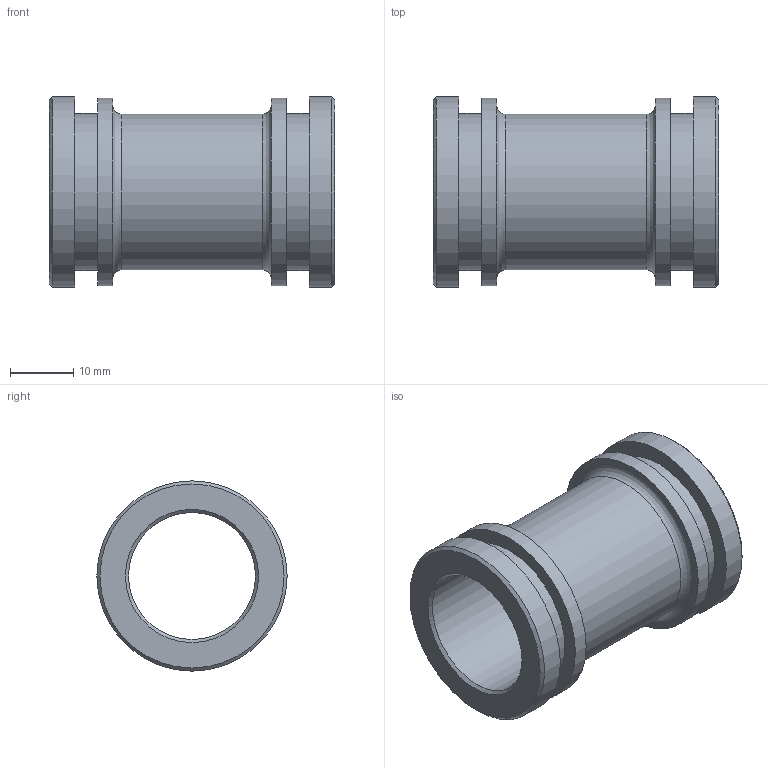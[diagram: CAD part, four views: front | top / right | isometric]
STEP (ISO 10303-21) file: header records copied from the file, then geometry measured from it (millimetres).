
FILE_DESCRIPTION((''),'2;1');
FILE_NAME('N:\CAD\ARCHIV\5350 (-999)\Standardhülsen\5350.020.045\Kundenteil 3D\5350.020.045 für Kunden.stp','2009-05-27T10:18:23',('HWalkhoff'),(''),'Autodesk Inventor 2009','Autodesk Inventor 2009','');
FILE_SCHEMA(('AUTOMOTIVE_DESIGN { 1 0 10303 214 1 1 1 1 }'));
Length unit declared in the file: millimetre
Products named in the file (1): Hülse für Kunden
Bounding box: 45 x 30 x 30 mm (x, y, z)
Volume: 10069.9 mm3; surface area: 8391.3 mm2
Topology: 1 solids, 1 shells, 22 faces, 36 edges, 22 vertices
Faces by surface type: cylinder 8, plane 8, cone 4, bspline 2
Full cylindrical faces by diameter (mm): 20 x1, 24.5 x1, 24.76 x2, 29.5 x2, 30 x2
Entity records: 554 total; most frequent: CARTESIAN_POINT 155, DIRECTION 86, ORIENTED_EDGE 44, EDGE_LOOP 44, AXIS2_PLACEMENT_3D 43, VERTEX_POINT 22, CIRCLE 22, EDGE_CURVE 22
